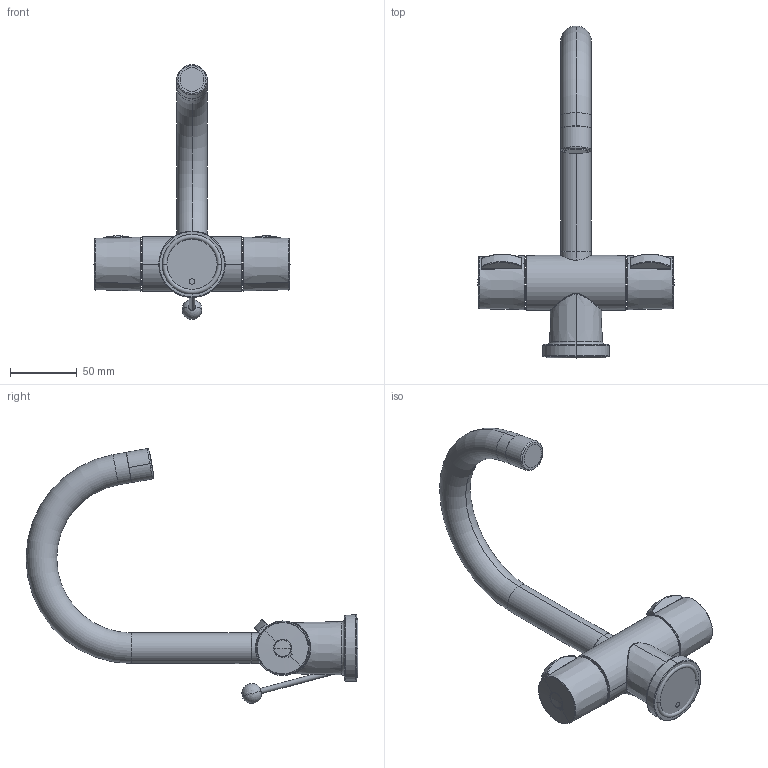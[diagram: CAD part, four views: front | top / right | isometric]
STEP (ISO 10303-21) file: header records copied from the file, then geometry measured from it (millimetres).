
FILE_DESCRIPTION((''),'2;1');
FILE_NAME('62821--','2026-10-14T11:30:26',('simi1'),(''),'CREO PARAMETRIC BY PTC INC, 2022244','CREO PARAMETRIC BY PTC INC, 2022244','');
FILE_SCHEMA(('CONFIG_CONTROL_DESIGN'));
Length unit declared in the file: millimetre
Products named in the file (1): 62821--
Bounding box: 147.25 x 249.15 x 191.31 mm (x, y, z)
Surface area: 65336.1 mm2 (no closed solid volume)
Topology: 0 solids, 20 shells, 183 faces, 479 edges, 295 vertices
Faces by surface type: bspline 50, cylinder 37, torus 34, plane 22, cone 22, sphere 18
Entity records: 8638 total; most frequent: CARTESIAN_POINT 4676, ORIENTED_EDGE 821, DIRECTION 742, EDGE_CURVE 473, AXIS2_PLACEMENT_3D 326, VERTEX_POINT 295, CIRCLE 193, B_SPLINE_CURVE_WITH_KNOTS 190
